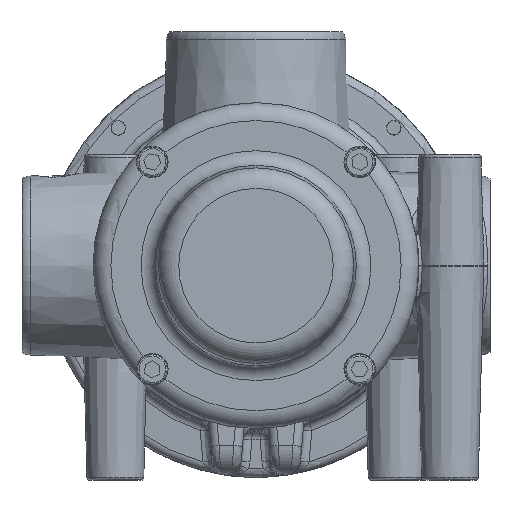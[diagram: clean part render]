
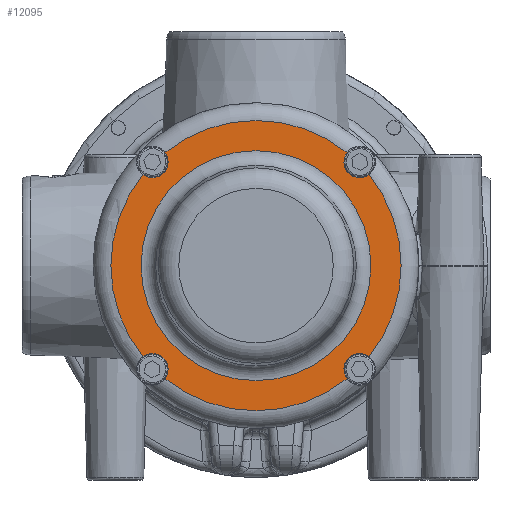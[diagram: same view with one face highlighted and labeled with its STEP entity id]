
A CAD part, front view. The second image highlights one B-rep face of the part: STEP entity #12095.
In plain terms, the highlighted planar face has unit normal (0, -1, 0).
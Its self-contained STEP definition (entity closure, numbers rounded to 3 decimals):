
#2151=FACE_BOUND('',#3931,.T.);
#3009=FACE_OUTER_BOUND('',#3930,.T.);
#3930=EDGE_LOOP('',(#10238,#10239,#10240,#10241,#10242,#10243,#10244,#10245));
#3931=EDGE_LOOP('',(#10246));
#4514=CIRCLE('',#13267,5.308);
#4515=CIRCLE('',#13268,49.);
#4516=CIRCLE('',#13269,5.308);
#4517=CIRCLE('',#13270,49.);
#4518=CIRCLE('',#13271,5.308);
#4519=CIRCLE('',#13272,49.);
#4520=CIRCLE('',#13273,5.308);
#4521=CIRCLE('',#13274,49.);
#4522=CIRCLE('',#13275,38.818);
#5554=VERTEX_POINT('',#29164);
#5555=VERTEX_POINT('',#29165);
#5556=VERTEX_POINT('',#29167);
#5557=VERTEX_POINT('',#29169);
#5558=VERTEX_POINT('',#29171);
#5559=VERTEX_POINT('',#29173);
#5560=VERTEX_POINT('',#29175);
#5561=VERTEX_POINT('',#29177);
#5562=VERTEX_POINT('',#29180);
#7134=EDGE_CURVE('',#5554,#5555,#4514,.T.);
#7135=EDGE_CURVE('',#5556,#5555,#4515,.T.);
#7136=EDGE_CURVE('',#5556,#5557,#4516,.T.);
#7137=EDGE_CURVE('',#5558,#5557,#4517,.T.);
#7138=EDGE_CURVE('',#5558,#5559,#4518,.T.);
#7139=EDGE_CURVE('',#5560,#5559,#4519,.T.);
#7140=EDGE_CURVE('',#5560,#5561,#4520,.T.);
#7141=EDGE_CURVE('',#5554,#5561,#4521,.T.);
#7142=EDGE_CURVE('',#5562,#5562,#4522,.T.);
#10238=ORIENTED_EDGE('',*,*,#7134,.T.);
#10239=ORIENTED_EDGE('',*,*,#7135,.F.);
#10240=ORIENTED_EDGE('',*,*,#7136,.T.);
#10241=ORIENTED_EDGE('',*,*,#7137,.F.);
#10242=ORIENTED_EDGE('',*,*,#7138,.T.);
#10243=ORIENTED_EDGE('',*,*,#7139,.F.);
#10244=ORIENTED_EDGE('',*,*,#7140,.T.);
#10245=ORIENTED_EDGE('',*,*,#7141,.F.);
#10246=ORIENTED_EDGE('',*,*,#7142,.T.);
#10652=PLANE('',#13266);
#12095=ADVANCED_FACE('',(#3009,#2151),#10652,.T.);
#13266=AXIS2_PLACEMENT_3D('',#29163,#16053,#16054);
#13267=AXIS2_PLACEMENT_3D('',#29166,#16055,#16056);
#13268=AXIS2_PLACEMENT_3D('',#29168,#16057,#16058);
#13269=AXIS2_PLACEMENT_3D('',#29170,#16059,#16060);
#13270=AXIS2_PLACEMENT_3D('',#29172,#16061,#16062);
#13271=AXIS2_PLACEMENT_3D('',#29174,#16063,#16064);
#13272=AXIS2_PLACEMENT_3D('',#29176,#16065,#16066);
#13273=AXIS2_PLACEMENT_3D('',#29178,#16067,#16068);
#13274=AXIS2_PLACEMENT_3D('',#29179,#16069,#16070);
#13275=AXIS2_PLACEMENT_3D('',#29181,#16071,#16072);
#16053=DIRECTION('center_axis',(0.,-1.,0.));
#16054=DIRECTION('ref_axis',(0.,0.,
-1.));
#16055=DIRECTION('center_axis',(0.,1.,0.));
#16056=DIRECTION('ref_axis',(-1.,0.,0.));
#16057=DIRECTION('center_axis',(0.,1.,0.));
#16058=DIRECTION('ref_axis',(-1.,0.,0.));
#16059=DIRECTION('center_axis',(0.,1.,0.));
#16060=DIRECTION('ref_axis',(-1.,0.,0.));
#16061=DIRECTION('center_axis',(0.,1.,0.));
#16062=DIRECTION('ref_axis',(-1.,0.,0.));
#16063=DIRECTION('center_axis',(0.,1.,0.));
#16064=DIRECTION('ref_axis',(-1.,0.,0.));
#16065=DIRECTION('center_axis',(0.,1.,0.));
#16066=DIRECTION('ref_axis',(-1.,0.,0.));
#16067=DIRECTION('center_axis',(0.,1.,0.));
#16068=DIRECTION('ref_axis',(-1.,0.,0.));
#16069=DIRECTION('center_axis',(0.,1.,0.));
#16070=DIRECTION('ref_axis',(-1.,0.,0.));
#16071=DIRECTION('center_axis',(0.,1.,0.));
#16072=DIRECTION('ref_axis',(-1.,0.,0.));
#29163=CARTESIAN_POINT('Origin',(-43.909,-7.,0.));
#29164=CARTESIAN_POINT('',(38.161,-7.,30.736));
#29165=CARTESIAN_POINT('',(30.736,-7.,38.161));
#29166=CARTESIAN_POINT('Origin',(35.,-7.,35.));
#29167=CARTESIAN_POINT('',(-30.736,-7.,38.161));
#29168=CARTESIAN_POINT('Origin',(0.,-7.,
0.));
#29169=CARTESIAN_POINT('',(-38.161,-7.,30.736));
#29170=CARTESIAN_POINT('Origin',(-35.,-7.,35.));
#29171=CARTESIAN_POINT('',(-38.161,-7.,-30.736));
#29172=CARTESIAN_POINT('Origin',(0.,-7.,
0.));
#29173=CARTESIAN_POINT('',(-30.736,-7.,-38.161));
#29174=CARTESIAN_POINT('Origin',(-35.,-7.,-35.));
#29175=CARTESIAN_POINT('',(30.736,-7.,-38.161));
#29176=CARTESIAN_POINT('Origin',(0.,-7.,
0.));
#29177=CARTESIAN_POINT('',(38.161,-7.,-30.736));
#29178=CARTESIAN_POINT('Origin',(35.,-7.,-35.));
#29179=CARTESIAN_POINT('Origin',(0.,-7.,
0.));
#29180=CARTESIAN_POINT('',(-38.818,-7.,0.));
#29181=CARTESIAN_POINT('Origin',(0.,-7.,
0.));
